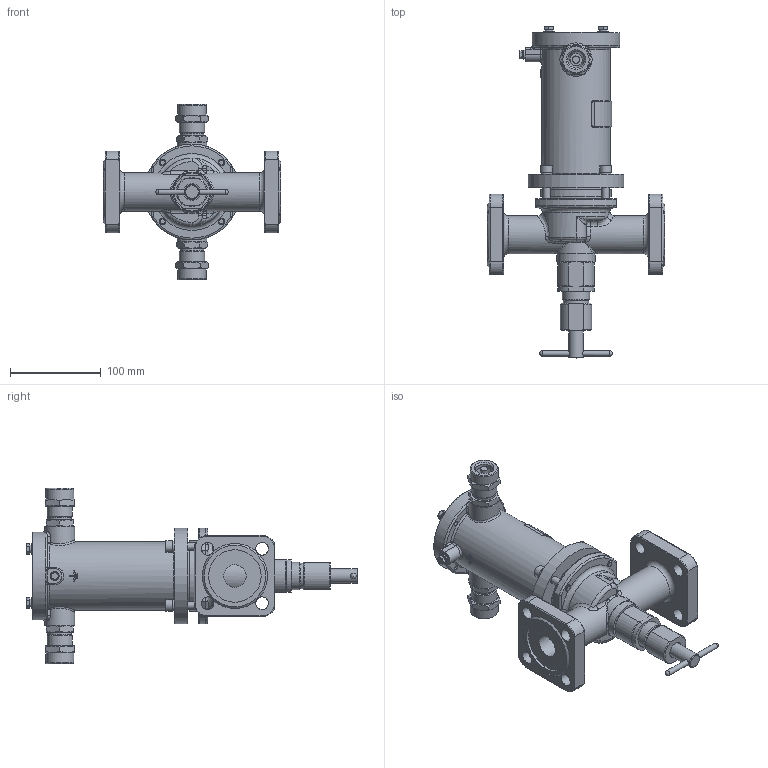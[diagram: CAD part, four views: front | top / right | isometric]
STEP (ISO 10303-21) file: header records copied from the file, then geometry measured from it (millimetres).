
FILE_DESCRIPTION(('STEP AP203'), '1');
FILE_NAME('ÑÅÍÑ-ÏÔ DN25PN25.stp', '2018-10-09T08:09:38', ('Îðëîâ Å.Â.'), ('ÎÎÎ ÍÏÏ Ñåíñîð'), 'ASCON STEP Converter 1.3', 'Kompas 3D', '');
FILE_SCHEMA(('CONFIG_CONTROL_DESIGN','SUPPORT_RESOURCE_SCHEMA'));
Length unit declared in the file: millimetre
Products named in the file (1): 68
Bounding box: 196 x 366.7 x 194 mm (x, y, z)
Volume: 1019486 mm3; surface area: 285575.1 mm2
Topology: 3 solids, 16 shells, 1969 faces, 5233 edges, 3393 vertices
Faces by surface type: cylinder 1000, plane 718, cone 126, torus 57, bspline 50, extrusion 16, sphere 2
Full cylindrical faces by diameter (mm): 3.3 x1, 3.5 x2, 4.134 x1, 4.917 x4, 5 x1, 6 x14, 6.5 x4, 8 x8, 9 x4, 10 x1, 12 x4, 13 x6, 14 x8, 16 x3, 17 x2, 18 x1, 18.632 x2, 19.9 x1, 20 x3, 22 x2, 22.376 x2, 23 x1, 23.5 x2, 24 x2, 24.5 x2, 25 x2, 26 x4, 26.376 x2, 27.8 x1, 28 x3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
Entity records: 76645 total; most frequent: CARTESIAN_POINT 26603, DIRECTION 10834, ORIENTED_EDGE 10424, EDGE_CURVE 5212, AXIS2_PLACEMENT_3D 4172, VERTEX_POINT 3393, VECTOR 2490, LINE 2474
